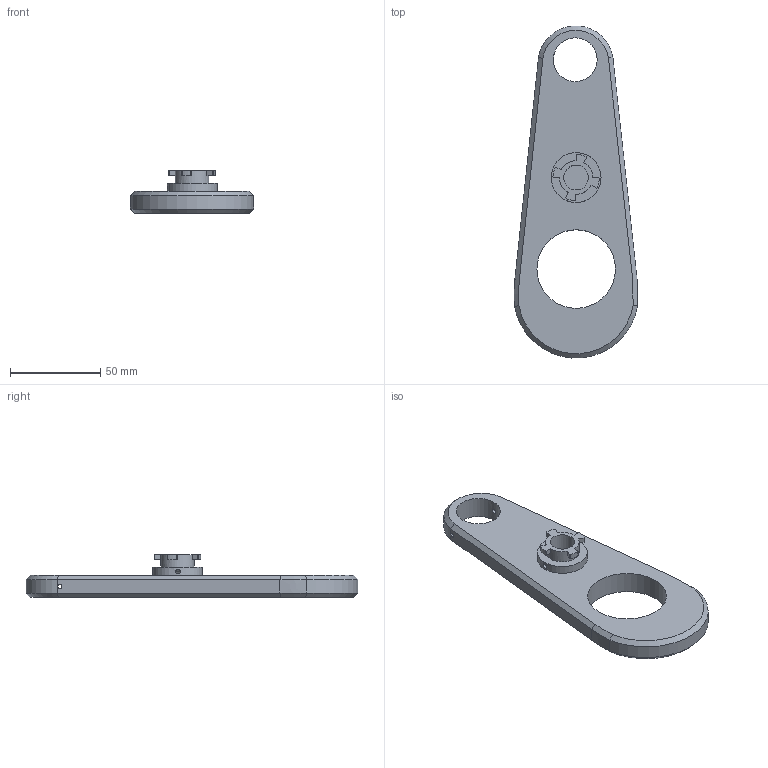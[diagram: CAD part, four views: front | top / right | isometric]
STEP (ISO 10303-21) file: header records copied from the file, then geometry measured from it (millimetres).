
FILE_DESCRIPTION(/* description */ (''),/* implementation_level */ '2;1');
FILE_NAME(/* name */ 'Crank Arm.stp',/* time_stamp */ '2026-08-27T19:25:36-06:00',/* author */ (''),/* organization */ (''),/* preprocessor_version */ 'ST-DEVELOPER v18.102',/* originating_system */ 'SIEMENS PLM Software NX 2027',/* authorisation */ '');
FILE_SCHEMA (('AUTOMOTIVE_DESIGN { 1 0 10303 214 3 1 1 1 }'));
Length unit declared in the file: inch
Products named in the file (1): Crank Arm
Bounding box: 68.45 x 183.56 x 23.73 mm (x, y, z)
Volume: 94247 mm3; surface area: 24196.1 mm2
Topology: 1 solids, 1 shells, 57 faces, 159 edges, 103 vertices
Faces by surface type: plane 33, cylinder 14, bspline 4, cone 4, extrusion 2
Full cylindrical faces by diameter (mm): 2.381 x3, 13.67 x1, 18.54 x1, 24.242 x1, 27.57 x1, 43.42 x1
Entity records: 2132 total; most frequent: CARTESIAN_POINT 764, ORIENTED_EDGE 276, DIRECTION 253, EDGE_CURVE 138, VERTEX_POINT 93, AXIS2_PLACEMENT_3D 87, VECTOR 79, EDGE_LOOP 79
